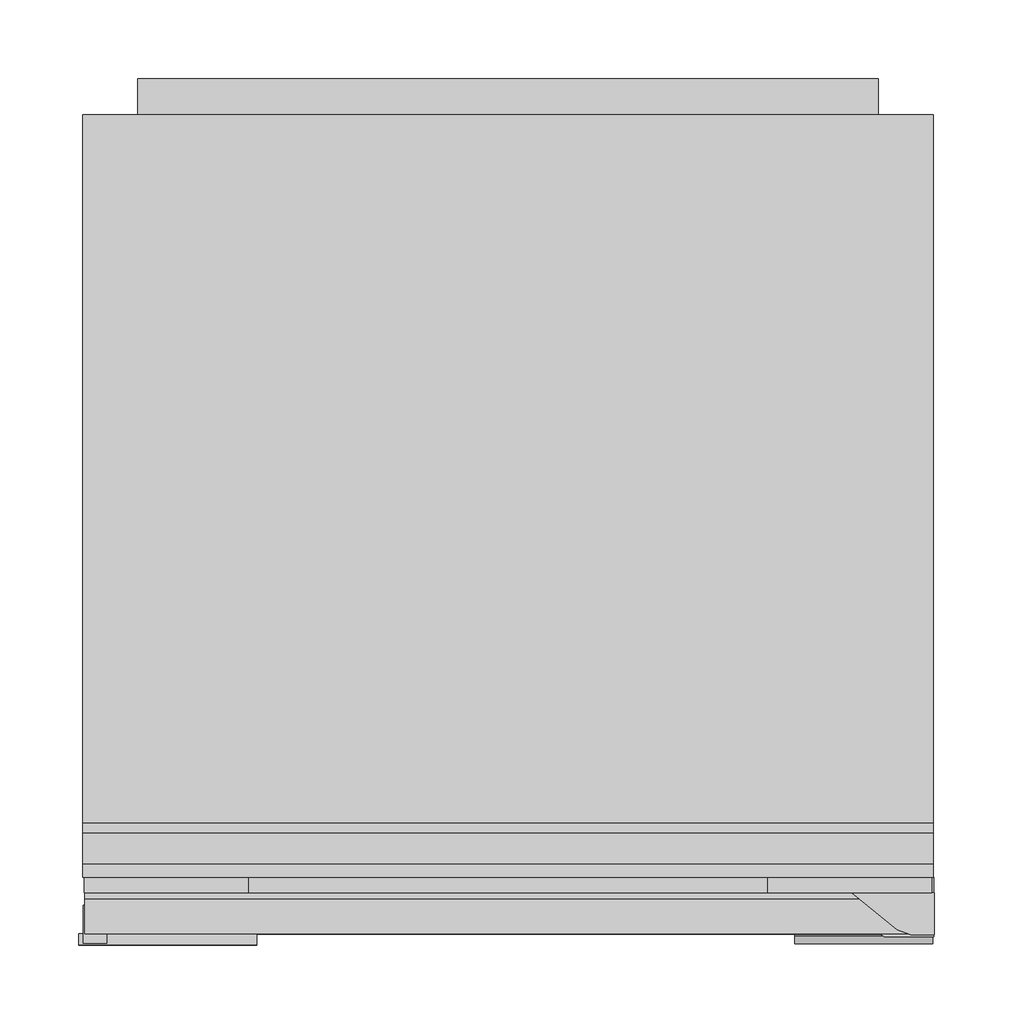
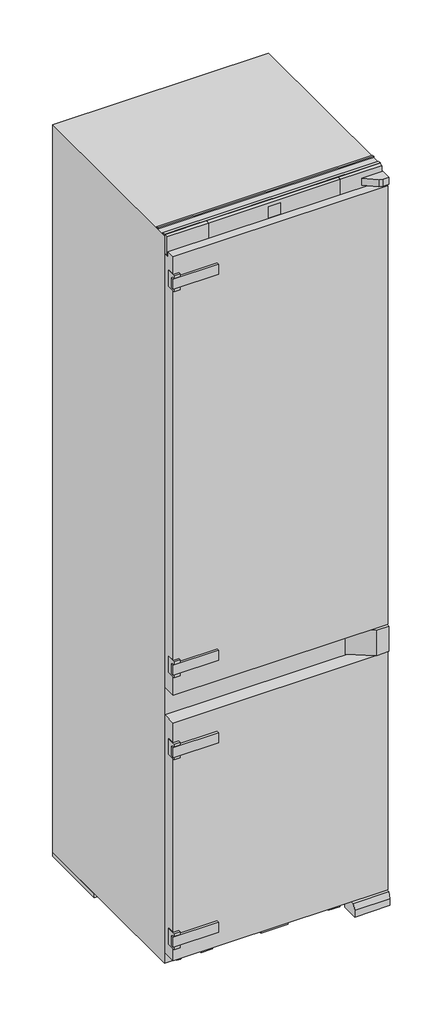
# Not in any storey: 1 proxy.
"""IFC4 building model written with IfcOpenShell, lengths in millimetres."""

from ifc_helpers import new_model, si_unit, origin, place, context, project, spatial, transform, mapped, element, save
from components import specialty_equipment_9df1b869

model = new_model("IFC4")

# Units and contexts
model_context = context("Model", 3, world=origin())
ifc_project = project(units=[si_unit("LENGTHUNIT", "METRE", prefix="MILLI")], contexts=[model_context])

# Site, building
site = spatial("IfcSite", under=ifc_project)
building = spatial("IfcBuilding", under=site)

# Proxy
placement = place(None, origin())
specialty_equipment_shape = specialty_equipment_9df1b869(model_context)
element("IfcBuildingElementProxy", 1, Name="12665220_EU1_KFN7833D : 38783300_EU1_12665220_KFN7833D", ObjectType="12665220_EU1_KFN7833D : 38783300_EU1_12665220_KFN7833D", at=placement, inside=building, context=model_context, shape_type="MappedRepresentation", body=[
    mapped(specialty_equipment_shape, transform((0.0, 0.0, 0.0), x_axis=(1.0, 0.0, 0.0), y_axis=(0.0, 1.0, 0.0), z_axis=(0.0, 0.0, 1.0))),
])

save(model, "model.ifc")
